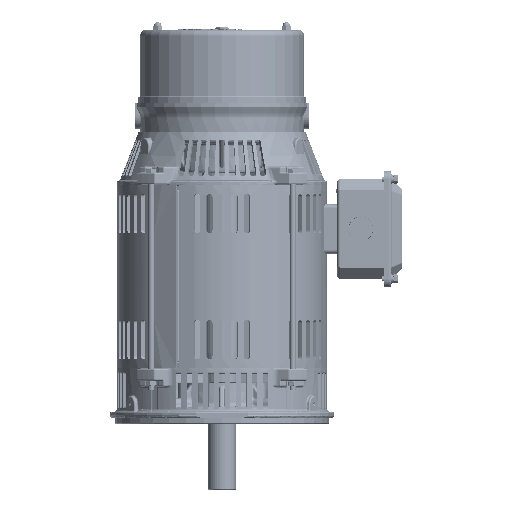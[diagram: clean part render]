
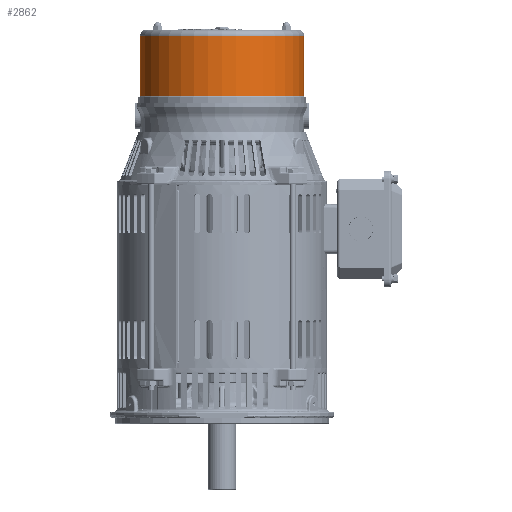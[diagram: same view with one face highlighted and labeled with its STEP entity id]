
A CAD part, front view. The second image highlights one B-rep face of the part: STEP entity #2862.
In plain terms, the highlighted cylindrical face has radius 83.058 mm (diameter 166.116 mm), a partial arc.
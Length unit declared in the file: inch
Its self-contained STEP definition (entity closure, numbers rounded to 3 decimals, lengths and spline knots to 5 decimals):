
#2862 = ADVANCED_FACE ( 'NONE', ( #148374 ), #37786, .T. ) ;
#9882 = EDGE_CURVE ( 'NONE', #32229, #105466, #63067, .T. ) ;
#11108 = VECTOR ( 'NONE', #167509, 39.37008 ) ;
#12487 = CARTESIAN_POINT ( 'NONE',  ( 3.27, 0., 5.89465 ) ) ;
#13125 = CARTESIAN_POINT ( 'NONE',  ( 0., 0., 3.51055 ) ) ;
#15998 = AXIS2_PLACEMENT_3D ( 'NONE', #159617, #29737, #60643 ) ;
#16960 = ORIENTED_EDGE ( 'NONE', *, *, #9882, .T. ) ;
#28853 = DIRECTION ( 'NONE',  ( 1., 0., 0. ) ) ;
#29737 = DIRECTION ( 'NONE',  ( 0., 0., 1. ) ) ;
#32229 = VERTEX_POINT ( 'NONE', #12487 ) ;
#33726 = CARTESIAN_POINT ( 'NONE',  ( 3.27, 0., 3.51055 ) ) ;
#34490 = DIRECTION ( 'NONE',  ( 1., 0., 0. ) ) ;
#37786 = CYLINDRICAL_SURFACE ( 'NONE', #15998, 3.27 ) ;
#40889 = ORIENTED_EDGE ( 'NONE', *, *, #97235, .F. ) ;
#42060 = DIRECTION ( 'NONE',  ( 0., 0., 1. ) ) ;
#60643 = DIRECTION ( 'NONE',  ( 1., 0., 0. ) ) ;
#61888 = CARTESIAN_POINT ( 'NONE',  ( 3.27, 0., 6.75004 ) ) ;
#63067 = CIRCLE ( 'NONE', #113462, 3.27 ) ;
#66756 = CARTESIAN_POINT ( 'NONE',  ( -3.27, 0., 6.75004 ) ) ;
#73054 = VECTOR ( 'NONE', #117981, 39.37008 ) ;
#85867 = EDGE_CURVE ( 'NONE', #112732, #32229, #154303, .T. ) ;
#89594 = ORIENTED_EDGE ( 'NONE', *, *, #123665, .T. ) ;
#90653 = DIRECTION ( 'NONE',  ( 0., 0., -1. ) ) ;
#97235 = EDGE_CURVE ( 'NONE', #179818, #105466, #157788, .T. ) ;
#102322 = EDGE_LOOP ( 'NONE', ( #40889, #89594, #155996, #16960 ) ) ;
#105466 = VERTEX_POINT ( 'NONE', #121256 ) ;
#112732 = VERTEX_POINT ( 'NONE', #33726 ) ;
#113462 = AXIS2_PLACEMENT_3D ( 'NONE', #176957, #90653, #34490 ) ;
#117981 = DIRECTION ( 'NONE',  ( 0., 0., 1. ) ) ;
#121256 = CARTESIAN_POINT ( 'NONE',  ( -3.27, 0., 5.89465 ) ) ;
#122801 = CARTESIAN_POINT ( 'NONE',  ( -3.27, 0., 3.51055 ) ) ;
#123665 = EDGE_CURVE ( 'NONE', #179818, #112732, #146241, .T. ) ;
#146241 = CIRCLE ( 'NONE', #170135, 3.27 ) ;
#148374 = FACE_OUTER_BOUND ( 'NONE', #102322, .T. ) ;
#154303 = LINE ( 'NONE', #61888, #73054 ) ;
#155996 = ORIENTED_EDGE ( 'NONE', *, *, #85867, .T. ) ;
#157788 = LINE ( 'NONE', #66756, #11108 ) ;
#159617 = CARTESIAN_POINT ( 'NONE',  ( 0., 0., 6.75004 ) ) ;
#167509 = DIRECTION ( 'NONE',  ( 0., 0., 1. ) ) ;
#170135 = AXIS2_PLACEMENT_3D ( 'NONE', #13125, #42060, #28853 ) ;
#176957 = CARTESIAN_POINT ( 'NONE',  ( 0., 0., 5.89465 ) ) ;
#179818 = VERTEX_POINT ( 'NONE', #122801 ) ;
